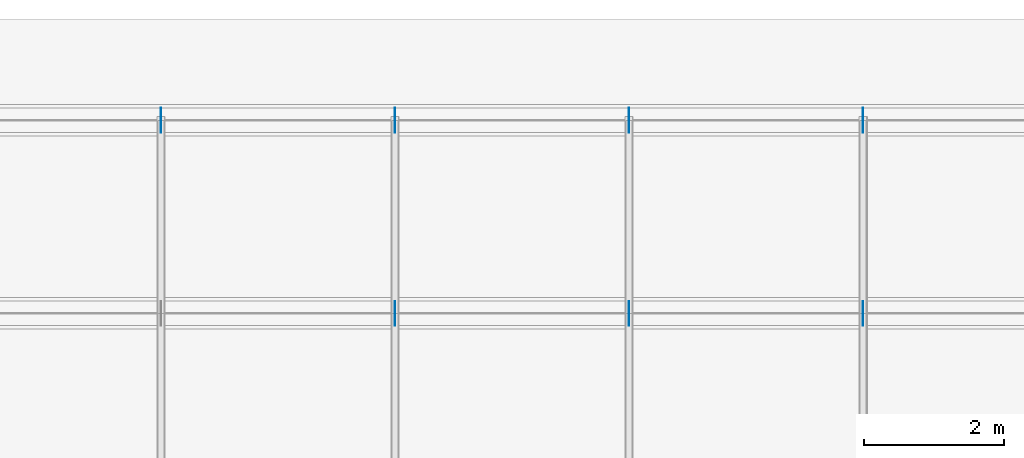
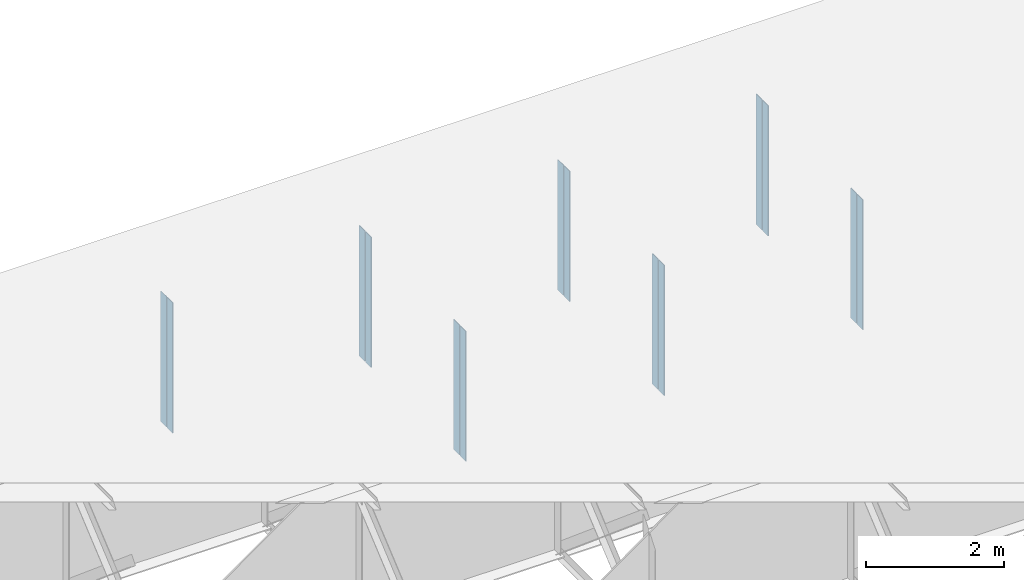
# One storey, part 18 of 19: 14 plates.
"""IFC4 building model written with IfcOpenShell, lengths in metres."""

from ifc_helpers import new_model, si_unit, frame, origin, origin_with_axes, origin_2d_with_axis, place, context, subcontext, project, spatial, rectangle, extrude, element, save


model = new_model("IFC4")

# Units and contexts
model_context = context("Model", 3, precision=1e-05, world=origin())
body_context = subcontext(model_context, "Body", "Model", "MODEL_VIEW")
ifc_project = project(units=[si_unit("LENGTHUNIT", "METRE"), si_unit("AREAUNIT", "SQUARE_METRE"), si_unit("VOLUMEUNIT", "CUBIC_METRE"), si_unit("PLANEANGLEUNIT", "RADIAN")], contexts=[model_context])

# Site, building, storey
site_placement = place(None, origin_with_axes())
site = spatial("IfcSite", under=ifc_project, at=site_placement, Name="Default Site")
building_placement = place(site_placement, origin_with_axes())
building = spatial("IfcBuilding", under=site, at=building_placement, Name="Bridge Structure")
storey_placement = place(building_placement, origin_with_axes())
storey = spatial("IfcBuildingStorey", under=building, at=storey_placement, Name="Superstructure")

# Plates
for number, where, z_axis, x_axis, name in (
    (1, (23.331, 2.8415, -1.157), (0.0, 0.0, 1.0), (1.0, 0.0, 0.0), "Intermediate Stiffener 4"),
    (2, (23.331, 2.6585, -1.157), (0.0, 0.0, 1.0), (1.0, 0.0, 0.0), "Intermediate Stiffener 4"),
    (3, (26.664, 2.8415, -1.157), (0.0, 0.0, 1.0), (1.0, 0.0, 0.0), "Intermediate Stiffener 4"),
    (4, (26.664, 2.6585, -1.157), (0.0, 0.0, 1.0), (1.0, 0.0, 0.0), "Intermediate Stiffener 4"),
    (5, (29.997, 2.8415, -1.157), (0.0, 0.0, 1.0), (1.0, 0.0, 0.0), "Intermediate Stiffener 4"),
    (6, (29.997, 2.6585, -1.157), (0.0, 0.0, 1.0), (1.0, 0.0, 0.0), "Intermediate Stiffener 4"),
    (7, (19.998, 5.5915, -1.157), (0.0, 0.0, 1.0), (1.0, 0.0, 0.0), "Intermediate Stiffener 5"),
    (8, (19.998, 5.4085, -1.157), (0.0, 0.0, 1.0), (1.0, 0.0, 0.0), "Intermediate Stiffener 5"),
    (9, (23.331, 5.5915, -1.157), (0.0, 0.0, 1.0), (1.0, 0.0, 0.0), "Intermediate Stiffener 5"),
    (10, (23.331, 5.4085, -1.157), (0.0, 0.0, 1.0), (1.0, 0.0, 0.0), "Intermediate Stiffener 5"),
    (11, (26.664, 5.5915, -1.157), (0.0, 0.0, 1.0), (1.0, 0.0, 0.0), "Intermediate Stiffener 5"),
    (12, (26.664, 5.4085, -1.157), (0.0, 0.0, 1.0), (1.0, 0.0, 0.0), "Intermediate Stiffener 5"),
    (13, (29.997, 5.5915, -1.157), (0.0, 0.0, 1.0), (1.0, 0.0, 0.0), "Intermediate Stiffener 5"),
    (14, (29.997, 5.4085, -1.157), (0.0, 0.0, 1.0), (1.0, 0.0, 0.0), "Intermediate Stiffener 5"),
):
    element("IfcPlate", number, at=place(storey_placement, frame(where, z_axis=z_axis, x_axis=x_axis)), inside=storey, Name=name, context=body_context, shape_type="SweptSolid", body=[
        extrude(rectangle(XDim=0.012, YDim=0.167, at=origin_2d_with_axis()), origin_with_axes(), (0.0, 0.0, 1.0), 2.314),
    ])

save(model, "model.ifc")
